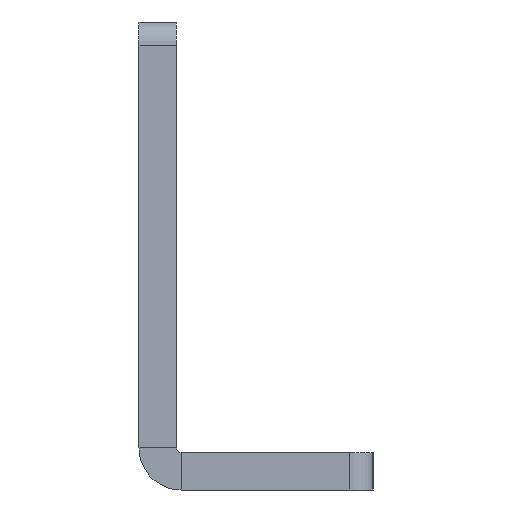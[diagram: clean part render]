
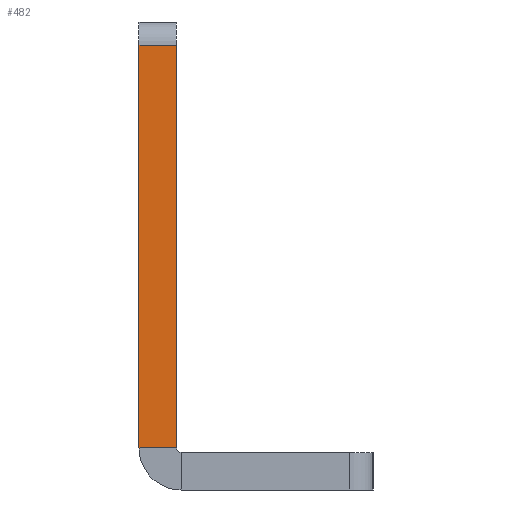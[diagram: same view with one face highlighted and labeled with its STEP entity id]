
A CAD part, left-side view. The second image highlights one B-rep face of the part: STEP entity #482.
In plain terms, the highlighted planar face has unit normal (-1, 0, 0).
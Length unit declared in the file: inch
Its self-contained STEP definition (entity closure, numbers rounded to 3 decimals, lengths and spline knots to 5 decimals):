
#42=PLANE('',#550);
#68=FACE_OUTER_BOUND('',#110,.T.);
#110=EDGE_LOOP('',(#439,#440,#441,#442));
#120=LINE('',#745,#156);
#124=LINE('',#755,#160);
#143=LINE('',#816,#179);
#146=LINE('',#824,#182);
#156=VECTOR('',#596,0.3937);
#160=VECTOR('',#604,0.3937);
#179=VECTOR('',#677,0.3937);
#182=VECTOR('',#690,0.3937);
#228=VERTEX_POINT('',#738);
#231=VERTEX_POINT('',#743);
#235=VERTEX_POINT('',#753);
#250=VERTEX_POINT('',#812);
#273=EDGE_CURVE('',#231,#228,#120,.T.);
#278=EDGE_CURVE('',#231,#235,#124,.T.);
#309=EDGE_CURVE('',#228,#250,#143,.T.);
#314=EDGE_CURVE('',#235,#250,#146,.T.);
#439=ORIENTED_EDGE('',*,*,#273,.F.);
#440=ORIENTED_EDGE('',*,*,#278,.T.);
#441=ORIENTED_EDGE('',*,*,#314,.T.);
#442=ORIENTED_EDGE('',*,*,#309,.F.);
#482=ADVANCED_FACE('',(#68),#42,.F.);
#550=AXIS2_PLACEMENT_3D('',#827,#695,#696);
#596=DIRECTION('',(0.,-1.,0.));
#604=DIRECTION('',(0.,0.,-1.));
#677=DIRECTION('',(0.,0.,-1.));
#690=DIRECTION('',(0.,-1.,0.));
#695=DIRECTION('center_axis',(1.,0.,0.));
#696=DIRECTION('ref_axis',(0.,0.,-1.));
#738=CARTESIAN_POINT('',(-5.875,-0.04,0.475));
#743=CARTESIAN_POINT('',(-5.875,0.,0.475));
#745=CARTESIAN_POINT('',(-5.875,0.,0.475));
#753=CARTESIAN_POINT('',(-5.875,0.,0.04492));
#755=CARTESIAN_POINT('',(-5.875,0.,0.));
#812=CARTESIAN_POINT('',(-5.875,-0.04,0.04492));
#816=CARTESIAN_POINT('',(-5.875,-0.04,0.));
#824=CARTESIAN_POINT('',(-5.875,0.,0.04492));
#827=CARTESIAN_POINT('Origin',(-5.875,0.,0.27246));
